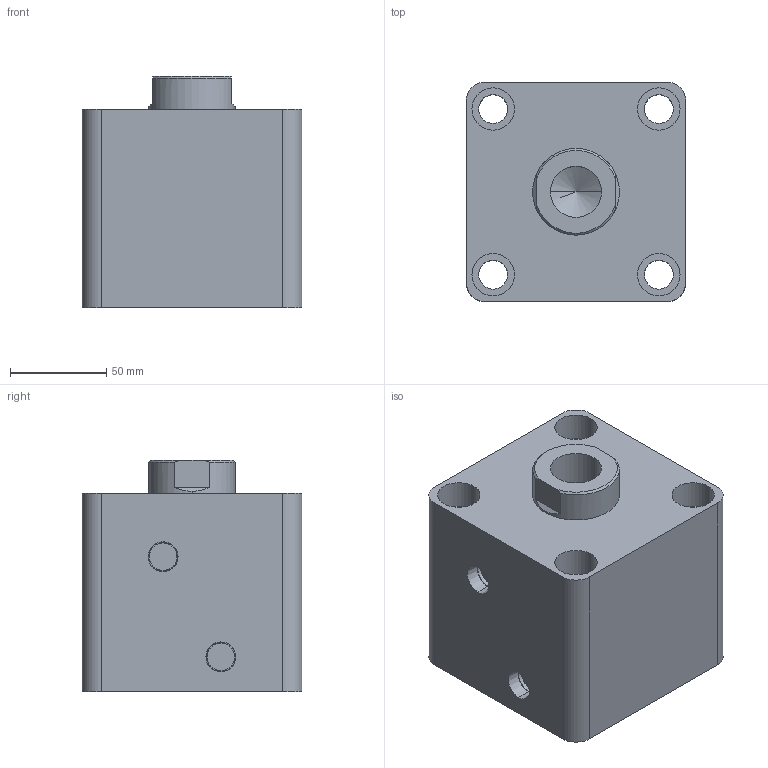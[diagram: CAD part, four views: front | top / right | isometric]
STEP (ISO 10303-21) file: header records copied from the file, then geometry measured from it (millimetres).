
FILE_DESCRIPTION (( 'STEP AP203' ), '1' );
FILE_NAME ('HTB-SD80-25N.STEP', '2019-10-07T08:16:52', ( '微软用户' ), ( '微软中国' ), 'SwSTEP 2.0', 'SolidWorks 2012', '' );
FILE_SCHEMA (( 'CONFIG_CONTROL_DESIGN' ));
Length unit declared in the file: millimetre
Products named in the file (3): HTB-SD80-25N; HTB-SD80-25N活塞杆; HTB-SD80-25掛极
Assembly tree (2 placements, depth 2):
  HTB-SD80-25N
    HTB-SD80-25掛极
    HTB-SD80-25N活塞杆
Bounding box: 114 x 114 x 120 mm (x, y, z)
Volume: 1148391.1 mm3; surface area: 149042.6 mm2
Topology: 2 solids, 2 shells, 83 faces, 184 edges, 119 vertices
Faces by surface type: cylinder 42, plane 27, cone 8, torus 6
Entity records: 2655 total; most frequent: DIRECTION 456, CARTESIAN_POINT 417, ORIENTED_EDGE 364, AXIS2_PLACEMENT_3D 194, EDGE_CURVE 182, VERTEX_POINT 119, EDGE_LOOP 107, CIRCLE 106
